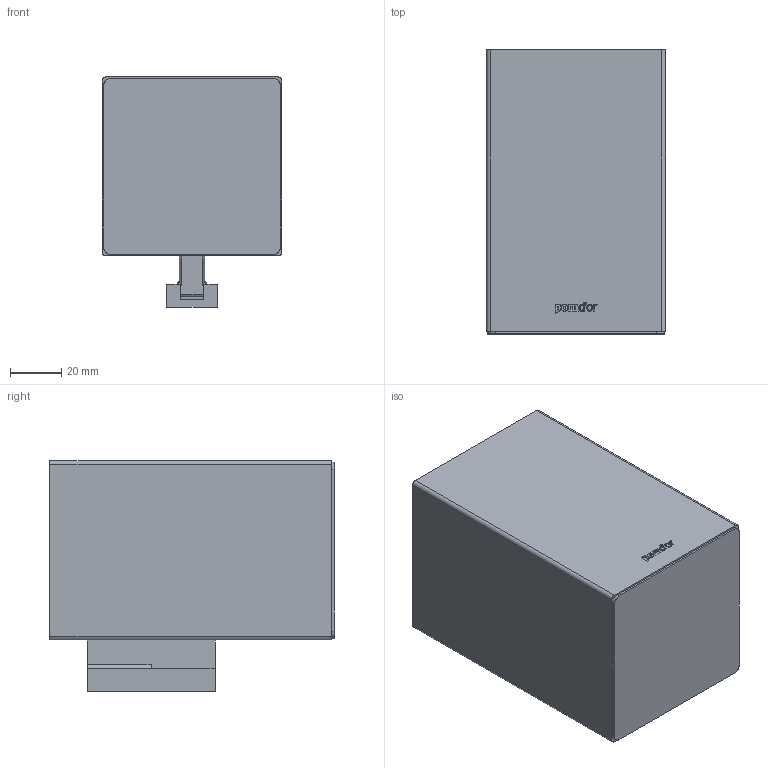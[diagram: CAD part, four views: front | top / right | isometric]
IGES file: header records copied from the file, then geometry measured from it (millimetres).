
Start section: SolidWorks IGES file using analytic representation for surfaces
Global section: file name: G:\Projects\New project\For Marketing\IGS\IGS\2015-12-4\387001002VW.IGS; native system: SolidWorks 2010; preprocessor: SolidWorks 2010; author: weijuan; date: 151201.163528; units: inch
Bounding box: 70 x 111 x 90 mm (x, y, z)
Surface area: 85744 mm2 (no closed solid volume)
Topology: 0 solids, 0 shells, 95 faces, 980 edges, 980 vertices
Faces by surface type: bspline 60, revolution 35
